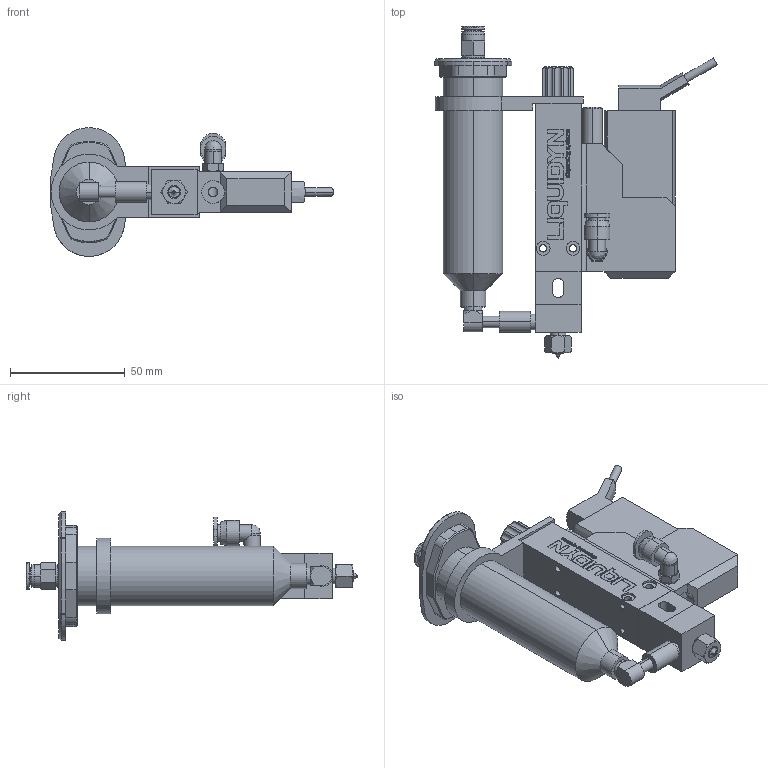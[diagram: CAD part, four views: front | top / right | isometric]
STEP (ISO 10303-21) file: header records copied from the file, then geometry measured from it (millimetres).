
FILE_DESCRIPTION (( 'STEP AP214' ), '1' );
FILE_NAME ('NORDSONEFD-7825002 LQ VALVE PDOT-CT.STEP', '2018-12-26T04:03:02', ( '' ), ( '' ), 'SwSTEP 2.0', 'SolidWorks 2018', '' );
FILE_SCHEMA (( 'AUTOMOTIVE_DESIGN' ));
Length unit declared in the file: inch
Products named in the file (1): NORDSONEFD-7825002  LQ VALVE PDOT-CT
Bounding box: 123.18 x 144.5 x 56 mm (x, y, z)
Volume: 152494.4 mm3; surface area: 44263.4 mm2
Topology: 12 solids, 12 shells, 806 faces, 2035 edges, 1304 vertices
Faces by surface type: plane 325, cylinder 201, bspline 166, cone 108, torus 6
Entity records: 37352 total; most frequent: CARTESIAN_POINT 18527, ORIENTED_EDGE 4050, DIRECTION 3316, EDGE_CURVE 2025, VERTEX_POINT 1304, AXIS2_PLACEMENT_3D 1117, LINE 1082, VECTOR 1082
